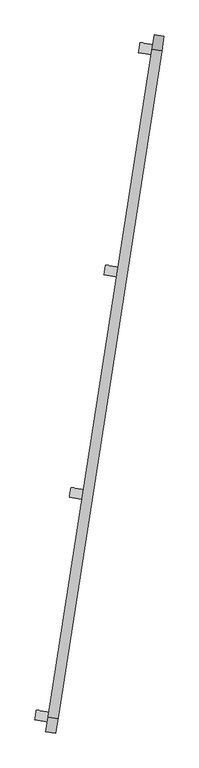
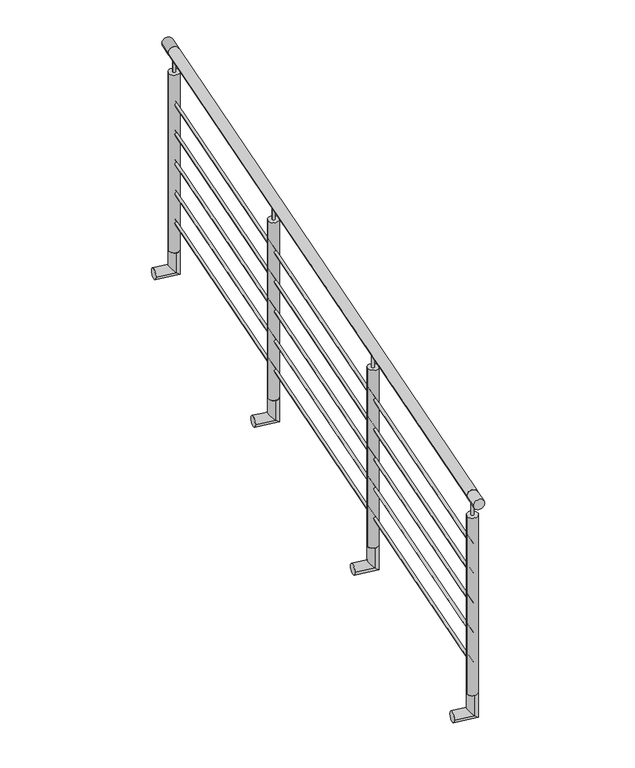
"""IFC4 building model written with IfcOpenShell, lengths in millimetres: railing geometry, Barandal acero inox - sobre ventana."""

from ifc_helpers import new_model, si_unit, point, frame, frame_2d, origin, origin_2d, place, context, project, spatial, circle_curve, ellipse_curve, trimmed, segment, composite_curve, outline, extrude, source, transform, mapped, element, save
from ifc_brep_helpers import plane_surface, cylinder_surface, advanced_brep


def railing_8b8c15a3(model_context):
    return source(origin(), model_context, "Body", "SolidModel", [
        extrude(outline(composite_curve([segment(trimmed(circle_curve(origin_2d(), 25.4), [point((25.4, 0.0))], [point((-25.4, 0.0))], False, "CARTESIAN"), True, "CONTINUOUS"), segment(trimmed(circle_curve(origin_2d(), 25.4), [point((-25.4, 0.0))], [point((25.4, 0.0))], False, "CARTESIAN"), True, "CONTINUOUS")], self_intersect=False)), frame((-22264.2463369, -63614.1866839, 10600.0), z_axis=(0.15400987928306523, 0.9880693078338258, 0.0), x_axis=(0.9880693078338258, -0.15400987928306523, 0.0)), (0.0, 0.0, 1.0), 3430.0),
        extrude(outline(composite_curve([segment(trimmed(circle_curve(origin_2d(), 6.35), [point((6.35, 0.0))], [point((-6.35, 0.0))], False, "CARTESIAN"), True, "CONTINUOUS"), segment(trimmed(circle_curve(origin_2d(), 6.35), [point((-6.35, 0.0))], [point((6.35, 0.0))], False, "CARTESIAN"), True, "CONTINUOUS")], self_intersect=False)), frame((-22264.2463369, -63614.1866839, 10350.0), z_axis=(0.15400987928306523, 0.9880693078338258, 0.0), x_axis=(0.9880693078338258, -0.15400987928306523, 0.0)), (0.0, 0.0, 1.0), 3430.0),
        extrude(outline(composite_curve([segment(trimmed(circle_curve(origin_2d(), 6.35), [point((6.35, 0.0))], [point((-6.35, 0.0))], False, "CARTESIAN"), True, "CONTINUOUS"), segment(trimmed(circle_curve(origin_2d(), 6.35), [point((-6.35, 0.0))], [point((6.35, 0.0))], False, "CARTESIAN"), True, "CONTINUOUS")], self_intersect=False)), frame((-22264.2463369, -63614.1866839, 10200.0), z_axis=(0.15400987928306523, 0.9880693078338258, 0.0), x_axis=(0.9880693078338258, -0.15400987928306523, 0.0)), (0.0, 0.0, 1.0), 3430.0),
        extrude(outline(composite_curve([segment(trimmed(circle_curve(origin_2d(), 6.35), [point((6.35, 0.0))], [point((-6.35, 0.0))], False, "CARTESIAN"), True, "CONTINUOUS"), segment(trimmed(circle_curve(origin_2d(), 6.35), [point((-6.35, 0.0))], [point((6.35, 0.0))], False, "CARTESIAN"), True, "CONTINUOUS")], self_intersect=False)), frame((-22264.2463369, -63614.1866839, 10050.0), z_axis=(0.15400987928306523, 0.9880693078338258, 0.0), x_axis=(0.9880693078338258, -0.15400987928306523, 0.0)), (0.0, 0.0, 1.0), 3430.0),
        extrude(outline(composite_curve([segment(trimmed(circle_curve(origin_2d(), 6.35), [point((6.35, 0.0))], [point((-6.35, 0.0))], False, "CARTESIAN"), True, "CONTINUOUS"), segment(trimmed(circle_curve(origin_2d(), 6.35), [point((-6.35, 0.0))], [point((6.35, 0.0))], False, "CARTESIAN"), True, "CONTINUOUS")], self_intersect=False)), frame((-22264.2463369, -63614.1866839, 9900.0), z_axis=(0.15400987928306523, 0.9880693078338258, 0.0), x_axis=(0.9880693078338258, -0.15400987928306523, 0.0)), (0.0, 0.0, 1.0), 3430.0),
        extrude(outline(composite_curve([segment(trimmed(circle_curve(origin_2d(), 6.35), [point((6.35, 0.0))], [point((-6.35, 0.0))], False, "CARTESIAN"), True, "CONTINUOUS"), segment(trimmed(circle_curve(origin_2d(), 6.35), [point((-6.35, 0.0))], [point((6.35, 0.0))], False, "CARTESIAN"), True, "CONTINUOUS")], self_intersect=False)), frame((-22264.2463369, -63614.1866839, 9750.0), z_axis=(0.15400987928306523, 0.9880693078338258, 0.0), x_axis=(0.9880693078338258, -0.15400987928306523, 0.0)), (0.0, 0.0, 1.0), 3430.0),
        advanced_brep(
        [(-21915.9889305, -61379.8984937, 9600.0), (-21908.1652287, -61329.7045729, 9600.0), (-21908.1652287, -61329.7045729, 9500.0), (-21915.9889305, -61379.8984937, 9500.0), (-22004.9151682, -61366.0376046, 9500.0), (-21997.0914664, -61315.8436837, 9500.0)],
        [
            (0, 1, circle_curve(frame((-21912.0770796, -61354.8015333, 9600.0), z_axis=(0.0, 0.0, 1.0), x_axis=(0.15400987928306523, 0.9880693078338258, 0.0)), 25.4)),
            (1, 0, circle_curve(frame((-21912.0770796, -61354.8015333, 9600.0), z_axis=(0.0, 0.0, 1.0), x_axis=(0.15400987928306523, 0.9880693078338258, 0.0)), 25.4)),
            (1, 2),
            (2, 3, ellipse_curve(frame((-21912.0770796, -61354.8015333, 9500.0), z_axis=(0.6986705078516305, -0.10890143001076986, 0.7071067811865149), x_axis=(-0.6986705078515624, 0.1089014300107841, 0.7071067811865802)), 35.9210245, 25.4)),
            (3, 0),
            (3, 2, ellipse_curve(frame((-21912.0770796, -61354.8015333, 9500.0), z_axis=(0.6986705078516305, -0.10890143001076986, 0.7071067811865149), x_axis=(-0.6986705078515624, 0.1089014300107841, 0.7071067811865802)), 35.9210245, 25.4)),
            (4, 5, circle_curve(frame((-22001.0033173, -61340.9406442, 9500.0), z_axis=(-0.9880693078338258, 0.15400987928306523, 0.0), x_axis=(0.15400987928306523, 0.9880693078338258, 0.0)), 25.4)),
            (5, 4, circle_curve(frame((-22001.0033173, -61340.9406442, 9500.0), z_axis=(-0.9880693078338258, 0.15400987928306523, 0.0), x_axis=(0.15400987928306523, 0.9880693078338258, 0.0)), 25.4)),
            (2, 5),
            (4, 3),
        ],
        [
            plane_surface(frame((-21912.0770796, -61354.8015333, 9600.0), z_axis=(0.0, 0.0, 1.0), x_axis=(0.15400987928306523, 0.9880693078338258, 0.0))),
            cylinder_surface(frame((-21912.0770796, -61354.8015333, 9600.0), z_axis=(0.0, 0.0, 1.0), x_axis=(0.15400987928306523, 0.9880693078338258, 0.0)), 25.4),
            plane_surface(frame((-22001.0033173, -61340.9406442, 9500.0), z_axis=(-0.9880693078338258, 0.15400987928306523, 0.0), x_axis=(0.15400987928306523, 0.9880693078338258, 0.0))),
            cylinder_surface(frame((-21912.0770796, -61354.8015333, 9500.0), z_axis=(0.9880693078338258, -0.15400987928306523, 0.0), x_axis=(0.15400987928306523, 0.9880693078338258, 0.0)), 25.4),
        ],
        [
            (0, [[1, 2]]),
            (1, [[3, 4, 5, -2]]),
            (1, [[-5, 6, -3, -1]]),
            (2, [[7, 8]]),
            (3, [[9, -7, 10, -4]]),
            (3, [[-10, -8, -9, -6]]),
        ],
    ),
        extrude(outline(composite_curve([segment(trimmed(circle_curve(frame_2d((-21912.0770796, -61354.8015333)), 6.35), [point((-21918.3513197, -61353.8235706))], [point((-21905.8028395, -61355.779496))], False, "CARTESIAN"), True, "CONTINUOUS"), segment(trimmed(circle_curve(frame_2d((-21912.0770796, -61354.8015333)), 6.35), [point((-21905.8028395, -61355.779496))], [point((-21918.3513197, -61353.8235706))], False, "CARTESIAN"), True, "CONTINUOUS")], self_intersect=False)), frame((0.0, 0.0, 10499.6), z_axis=(0.0, 0.0, 1.0), x_axis=(1.0, 0.0, 0.0)), (0.0, 0.0, 1.0), 75.0),
        extrude(outline(composite_curve([segment(trimmed(circle_curve(frame_2d((-21912.0770796, -61354.8015333)), 25.4), [point((-21937.17404, -61350.8896824))], [point((-21886.9801192, -61358.7133842))], False, "CARTESIAN"), True, "CONTINUOUS"), segment(trimmed(circle_curve(frame_2d((-21912.0770796, -61354.8015333)), 25.4), [point((-21886.9801192, -61358.7133842))], [point((-21937.17404, -61350.8896824))], False, "CARTESIAN"), True, "CONTINUOUS")], self_intersect=False)), frame((0.0, 0.0, 9600.0), z_axis=(0.0, 0.0, 1.0), x_axis=(1.0, 0.0, 0.0)), (0.0, 0.0, 1.0), 899.6),
        advanced_brep(
        [(-22092.0735592, -62509.591069, 9600.0), (-22084.2498573, -62459.3971482, 9600.0), (-22084.2498573, -62459.3971482, 9500.0), (-22092.0735592, -62509.591069, 9500.0), (-22180.9997969, -62495.7301799, 9500.0), (-22173.176095, -62445.536259, 9500.0)],
        [
            (0, 1, circle_curve(frame((-22088.1617082, -62484.4941086, 9600.0), z_axis=(0.0, 0.0, 1.0), x_axis=(0.15400987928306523, 0.9880693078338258, 0.0)), 25.4)),
            (1, 0, circle_curve(frame((-22088.1617082, -62484.4941086, 9600.0), z_axis=(0.0, 0.0, 1.0), x_axis=(0.15400987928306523, 0.9880693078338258, 0.0)), 25.4)),
            (1, 2),
            (2, 3, ellipse_curve(frame((-22088.1617082, -62484.4941086, 9500.0), z_axis=(0.6986705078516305, -0.10890143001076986, 0.7071067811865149), x_axis=(-0.6986705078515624, 0.1089014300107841, 0.7071067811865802)), 35.9210245, 25.4)),
            (3, 0),
            (3, 2, ellipse_curve(frame((-22088.1617082, -62484.4941086, 9500.0), z_axis=(0.6986705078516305, -0.10890143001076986, 0.7071067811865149), x_axis=(-0.6986705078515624, 0.1089014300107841, 0.7071067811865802)), 35.9210245, 25.4)),
            (4, 5, circle_curve(frame((-22177.087946, -62470.6332195, 9500.0), z_axis=(-0.9880693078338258, 0.15400987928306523, 0.0), x_axis=(0.15400987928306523, 0.9880693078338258, 0.0)), 25.4)),
            (5, 4, circle_curve(frame((-22177.087946, -62470.6332195, 9500.0), z_axis=(-0.9880693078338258, 0.15400987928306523, 0.0), x_axis=(0.15400987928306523, 0.9880693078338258, 0.0)), 25.4)),
            (2, 5),
            (4, 3),
        ],
        [
            plane_surface(frame((-22088.1617082, -62484.4941086, 9600.0), z_axis=(0.0, 0.0, 1.0), x_axis=(0.15400987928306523, 0.9880693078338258, 0.0))),
            cylinder_surface(frame((-22088.1617082, -62484.4941086, 9600.0), z_axis=(0.0, 0.0, 1.0), x_axis=(0.15400987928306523, 0.9880693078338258, 0.0)), 25.4),
            plane_surface(frame((-22177.087946, -62470.6332195, 9500.0), z_axis=(-0.9880693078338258, 0.15400987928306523, 0.0), x_axis=(0.15400987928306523, 0.9880693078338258, 0.0))),
            cylinder_surface(frame((-22088.1617082, -62484.4941086, 9500.0), z_axis=(0.9880693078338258, -0.15400987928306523, 0.0), x_axis=(0.15400987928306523, 0.9880693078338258, 0.0)), 25.4),
        ],
        [
            (0, [[1, 2]]),
            (1, [[3, 4, 5, -2]]),
            (1, [[-5, 6, -3, -1]]),
            (2, [[7, 8]]),
            (3, [[9, -7, 10, -4]]),
            (3, [[-10, -8, -9, -6]]),
        ],
    ),
        extrude(outline(composite_curve([segment(trimmed(circle_curve(frame_2d((-22088.1617082, -62484.4941086)), 6.35), [point((-22094.4359484, -62483.5161459))], [point((-22081.8874681, -62485.4720713))], False, "CARTESIAN"), True, "CONTINUOUS"), segment(trimmed(circle_curve(frame_2d((-22088.1617082, -62484.4941086)), 6.35), [point((-22081.8874681, -62485.4720713))], [point((-22094.4359484, -62483.5161459))], False, "CARTESIAN"), True, "CONTINUOUS")], self_intersect=False)), frame((0.0, 0.0, 10499.6), z_axis=(0.0, 0.0, 1.0), x_axis=(1.0, 0.0, 0.0)), (0.0, 0.0, 1.0), 75.0),
        extrude(outline(composite_curve([segment(trimmed(circle_curve(frame_2d((-22088.1617082, -62484.4941086)), 25.4), [point((-22113.2586687, -62480.5822577))], [point((-22063.0647478, -62488.4059595))], False, "CARTESIAN"), True, "CONTINUOUS"), segment(trimmed(circle_curve(frame_2d((-22088.1617082, -62484.4941086)), 25.4), [point((-22063.0647478, -62488.4059595))], [point((-22113.2586687, -62480.5822577))], False, "CARTESIAN"), True, "CONTINUOUS")], self_intersect=False)), frame((0.0, 0.0, 9600.0), z_axis=(0.0, 0.0, 1.0), x_axis=(1.0, 0.0, 0.0)), (0.0, 0.0, 1.0), 899.6),
        advanced_brep(
        [(-21739.9043019, -60250.2059184, 9600.0), (-21732.0806, -60200.0119976, 9600.0), (-21732.0806, -60200.0119976, 9500.0), (-21739.9043019, -60250.2059184, 9500.0), (-21828.8305396, -60236.3450293, 9500.0), (-21821.0068377, -60186.1511085, 9500.0)],
        [
            (0, 1, circle_curve(frame((-21735.992451, -60225.108958, 9600.0), z_axis=(0.0, 0.0, 1.0), x_axis=(0.15400987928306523, 0.9880693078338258, 0.0)), 25.4)),
            (1, 0, circle_curve(frame((-21735.992451, -60225.108958, 9600.0), z_axis=(0.0, 0.0, 1.0), x_axis=(0.15400987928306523, 0.9880693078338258, 0.0)), 25.4)),
            (1, 2),
            (2, 3, ellipse_curve(frame((-21735.992451, -60225.108958, 9500.0), z_axis=(0.6986705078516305, -0.10890143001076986, 0.7071067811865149), x_axis=(-0.6986705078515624, 0.1089014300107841, 0.7071067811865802)), 35.9210245, 25.4)),
            (3, 0),
            (3, 2, ellipse_curve(frame((-21735.992451, -60225.108958, 9500.0), z_axis=(0.6986705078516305, -0.10890143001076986, 0.7071067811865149), x_axis=(-0.6986705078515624, 0.1089014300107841, 0.7071067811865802)), 35.9210245, 25.4)),
            (4, 5, circle_curve(frame((-21824.9186887, -60211.2480689, 9500.0), z_axis=(-0.9880693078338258, 0.15400987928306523, 0.0), x_axis=(0.15400987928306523, 0.9880693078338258, 0.0)), 25.4)),
            (5, 4, circle_curve(frame((-21824.9186887, -60211.2480689, 9500.0), z_axis=(-0.9880693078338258, 0.15400987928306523, 0.0), x_axis=(0.15400987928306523, 0.9880693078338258, 0.0)), 25.4)),
            (2, 5),
            (4, 3),
        ],
        [
            plane_surface(frame((-21735.992451, -60225.108958, 9600.0), z_axis=(0.0, 0.0, 1.0), x_axis=(0.15400987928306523, 0.9880693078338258, 0.0))),
            cylinder_surface(frame((-21735.992451, -60225.108958, 9600.0), z_axis=(0.0, 0.0, 1.0), x_axis=(0.15400987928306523, 0.9880693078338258, 0.0)), 25.4),
            plane_surface(frame((-21824.9186887, -60211.2480689, 9500.0), z_axis=(-0.9880693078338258, 0.15400987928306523, 0.0), x_axis=(0.15400987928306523, 0.9880693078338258, 0.0))),
            cylinder_surface(frame((-21735.992451, -60225.108958, 9500.0), z_axis=(0.9880693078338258, -0.15400987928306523, 0.0), x_axis=(0.15400987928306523, 0.9880693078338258, 0.0)), 25.4),
        ],
        [
            (0, [[1, 2]]),
            (1, [[3, 4, 5, -2]]),
            (1, [[-5, 6, -3, -1]]),
            (2, [[7, 8]]),
            (3, [[9, -7, 10, -4]]),
            (3, [[-10, -8, -9, -6]]),
        ],
    ),
        extrude(outline(composite_curve([segment(trimmed(circle_curve(frame_2d((0.0, 25.4000001)), 25.4), [point((0.0, 50.8000001))], [point((0.0, 0.0))], False, "CARTESIAN"), True, "CONTINUOUS"), segment(trimmed(circle_curve(frame_2d((0.0, 25.4000001)), 25.4), [point((0.0, 0.0))], [point((0.0, 50.8000001))], False, "CARTESIAN"), True, "CONTINUOUS")], self_intersect=False)), frame((-21710.8954905, -60229.0208089, 10600.0), z_axis=(0.15400987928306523, 0.9880693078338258, 0.0), x_axis=(0.0, 0.0, -1.0)), (0.0, 0.0, 1.0), 75.0),
        extrude(outline(composite_curve([segment(trimmed(circle_curve(frame_2d((-21735.992451, -60225.108958)), 6.35), [point((-21742.2666911, -60224.1309953))], [point((-21729.7182108, -60226.0869207))], False, "CARTESIAN"), True, "CONTINUOUS"), segment(trimmed(circle_curve(frame_2d((-21735.992451, -60225.108958)), 6.35), [point((-21729.7182108, -60226.0869207))], [point((-21742.2666911, -60224.1309953))], False, "CARTESIAN"), True, "CONTINUOUS")], self_intersect=False)), frame((0.0, 0.0, 10499.6), z_axis=(0.0, 0.0, 1.0), x_axis=(1.0, 0.0, 0.0)), (0.0, 0.0, 1.0), 75.0),
        extrude(outline(composite_curve([segment(trimmed(circle_curve(frame_2d((-21735.992451, -60225.108958)), 25.4), [point((-21761.0894114, -60221.1971071))], [point((-21710.8954905, -60229.0208089))], False, "CARTESIAN"), True, "CONTINUOUS"), segment(trimmed(circle_curve(frame_2d((-21735.992451, -60225.108958)), 25.4), [point((-21710.8954905, -60229.0208089))], [point((-21761.0894114, -60221.1971071))], False, "CARTESIAN"), True, "CONTINUOUS")], self_intersect=False)), frame((0.0, 0.0, 9600.0), z_axis=(0.0, 0.0, 1.0), x_axis=(1.0, 0.0, 0.0)), (0.0, 0.0, 1.0), 899.6),
        advanced_brep(
        [(-22268.1581878, -63639.2836443, 9600.0), (-22260.334486, -63589.0897235, 9600.0), (-22260.334486, -63589.0897235, 9500.0), (-22268.1581878, -63639.2836443, 9500.0), (-22357.0844255, -63625.4227552, 9500.0), (-22349.2607237, -63575.2288343, 9500.0)],
        [
            (0, 1, circle_curve(frame((-22264.2463369, -63614.1866839, 9600.0), z_axis=(0.0, 0.0, 1.0), x_axis=(0.15400987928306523, 0.9880693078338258, 0.0)), 25.4)),
            (1, 0, circle_curve(frame((-22264.2463369, -63614.1866839, 9600.0), z_axis=(0.0, 0.0, 1.0), x_axis=(0.15400987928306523, 0.9880693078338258, 0.0)), 25.4)),
            (1, 2),
            (2, 3, ellipse_curve(frame((-22264.2463369, -63614.1866839, 9500.0), z_axis=(0.6986705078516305, -0.10890143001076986, 0.7071067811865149), x_axis=(-0.6986705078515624, 0.1089014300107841, 0.7071067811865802)), 35.9210245, 25.4)),
            (3, 0),
            (3, 2, ellipse_curve(frame((-22264.2463369, -63614.1866839, 9500.0), z_axis=(0.6986705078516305, -0.10890143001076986, 0.7071067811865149), x_axis=(-0.6986705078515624, 0.1089014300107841, 0.7071067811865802)), 35.9210245, 25.4)),
            (4, 5, circle_curve(frame((-22353.1725746, -63600.3257947, 9500.0), z_axis=(-0.9880693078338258, 0.15400987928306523, 0.0), x_axis=(0.15400987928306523, 0.9880693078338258, 0.0)), 25.4)),
            (5, 4, circle_curve(frame((-22353.1725746, -63600.3257947, 9500.0), z_axis=(-0.9880693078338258, 0.15400987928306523, 0.0), x_axis=(0.15400987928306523, 0.9880693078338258, 0.0)), 25.4)),
            (2, 5),
            (4, 3),
        ],
        [
            plane_surface(frame((-22264.2463369, -63614.1866839, 9600.0), z_axis=(0.0, 0.0, 1.0), x_axis=(0.15400987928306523, 0.9880693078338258, 0.0))),
            cylinder_surface(frame((-22264.2463369, -63614.1866839, 9600.0), z_axis=(0.0, 0.0, 1.0), x_axis=(0.15400987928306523, 0.9880693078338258, 0.0)), 25.4),
            plane_surface(frame((-22353.1725746, -63600.3257947, 9500.0), z_axis=(-0.9880693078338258, 0.15400987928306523, 0.0), x_axis=(0.15400987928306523, 0.9880693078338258, 0.0))),
            cylinder_surface(frame((-22264.2463369, -63614.1866839, 9500.0), z_axis=(0.9880693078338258, -0.15400987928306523, 0.0), x_axis=(0.15400987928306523, 0.9880693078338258, 0.0)), 25.4),
        ],
        [
            (0, [[1, 2]]),
            (1, [[3, 4, 5, -2]]),
            (1, [[-5, 6, -3, -1]]),
            (2, [[7, 8]]),
            (3, [[9, -7, 10, -4]]),
            (3, [[-10, -8, -9, -6]]),
        ],
    ),
        extrude(outline(composite_curve([segment(trimmed(circle_curve(frame_2d((0.0, 25.4)), 25.4), [point((0.0, 50.8000001))], [point((0.0, 0.0))], False, "CARTESIAN"), True, "CONTINUOUS"), segment(trimmed(circle_curve(frame_2d((0.0, 25.4)), 25.4), [point((0.0, 0.0))], [point((0.0, 50.8000001))], False, "CARTESIAN"), True, "CONTINUOUS")], self_intersect=False)), frame((-22250.7001174, -63692.2037329, 10600.0), z_axis=(0.15400987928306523, 0.9880693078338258, 0.0), x_axis=(0.0, 0.0, -1.0)), (0.0, 0.0, 1.0), 75.0),
        extrude(outline(composite_curve([segment(trimmed(circle_curve(frame_2d((-22264.2463369, -63614.1866839)), 6.35), [point((-22270.520577, -63613.2087211))], [point((-22257.9720968, -63615.1646466))], False, "CARTESIAN"), True, "CONTINUOUS"), segment(trimmed(circle_curve(frame_2d((-22264.2463369, -63614.1866839)), 6.35), [point((-22257.9720968, -63615.1646466))], [point((-22270.520577, -63613.2087211))], False, "CARTESIAN"), True, "CONTINUOUS")], self_intersect=False)), frame((0.0, 0.0, 10499.6), z_axis=(0.0, 0.0, 1.0), x_axis=(1.0, 0.0, 0.0)), (0.0, 0.0, 1.0), 75.0),
        extrude(outline(composite_curve([segment(trimmed(circle_curve(frame_2d((-22264.2463369, -63614.1866839)), 25.4), [point((-22289.3432973, -63610.2748329))], [point((-22239.1493765, -63618.0985348))], False, "CARTESIAN"), True, "CONTINUOUS"), segment(trimmed(circle_curve(frame_2d((-22264.2463369, -63614.1866839)), 25.4), [point((-22239.1493765, -63618.0985348))], [point((-22289.3432973, -63610.2748329))], False, "CARTESIAN"), True, "CONTINUOUS")], self_intersect=False)), frame((0.0, 0.0, 9600.0), z_axis=(0.0, 0.0, 1.0), x_axis=(1.0, 0.0, 0.0)), (0.0, 0.0, 1.0), 899.6),
    ])


if __name__ == "__main__":
    model = new_model("IFC4")
    model_context = context("Model", 3, world=origin())
    ifc_project = project(units=[si_unit("LENGTHUNIT", "METRE", prefix="MILLI")], contexts=[model_context])
    site = spatial("IfcSite", under=ifc_project)
    building = spatial("IfcBuilding", under=site)
    placement = place(None, origin())
    railing_shape = railing_8b8c15a3(model_context)
    element("IfcRailing", 1, ObjectType="Barandal acero inox - sobre ventana", at=placement, inside=building, context=model_context, shape_type="MappedRepresentation", body=[
        mapped(railing_shape, transform((0.0, 0.0, 0.0), x_axis=(1.0, 0.0, 0.0), y_axis=(0.0, 1.0, 0.0), z_axis=(0.0, 0.0, 1.0))),
    ])
    save(model, "model.ifc")
